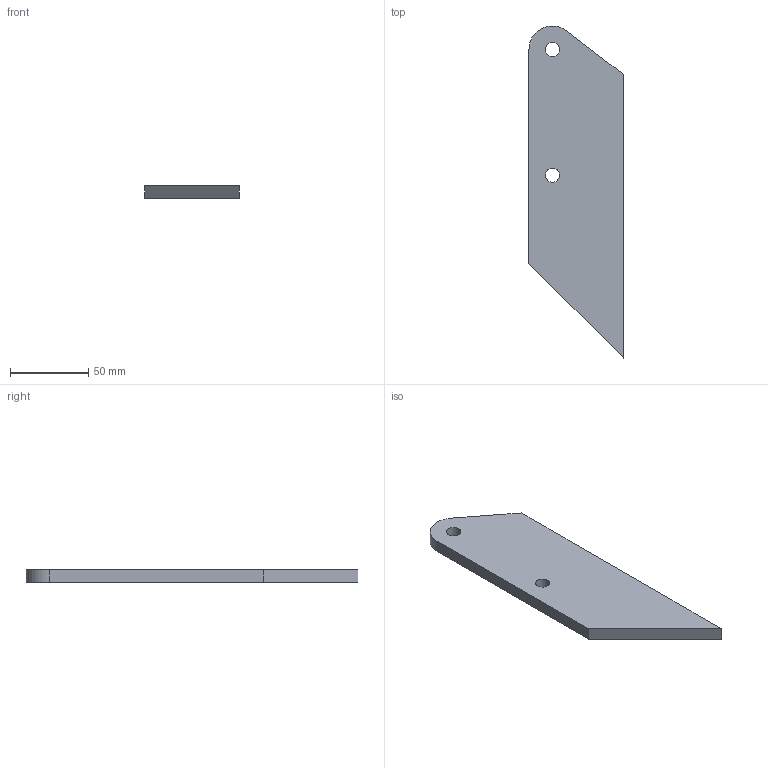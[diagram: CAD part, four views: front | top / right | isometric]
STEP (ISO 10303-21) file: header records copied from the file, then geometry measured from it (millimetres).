
FILE_DESCRIPTION(/* description */ (''),/* implementation_level */ '2;1');
FILE_NAME(/* name */ 'Pos144-Plaatwerk D= 8-S235JRG2-3st',/* time_stamp */ '2024-08-06T13:37:44+02:00',/* author */ (''),/* organization */ (''),/* preprocessor_version */ 'ST-DEVELOPER v16.5',/* originating_system */ 'HiCAD 2024 2901.2 Build 361',/* authorisation */ '');
FILE_SCHEMA (('AUTOMOTIVE_DESIGN { 1 0 10303 214 1 1 1 1 }'));
Length unit declared in the file: millimetre
Products named in the file (1): Pos144-Plaatwerk D= 8-S235JRG2-3st
Bounding box: 60 x 211.73 x 8 mm (x, y, z)
Volume: 80904 mm3; surface area: 24528.4 mm2
Topology: 1 solids, 1 shells, 9 faces, 23 edges, 16 vertices
Faces by surface type: plane 6, cylinder 3
Full cylindrical faces by diameter (mm): 9 x2
Entity records: 467 total; most frequent: DIRECTION 43, CARTESIAN_POINT 42, PRESENTATION_STYLE_ASSIGNMENT 39, COLOUR_RGB 39, DRAUGHTING_PRE_DEFINED_CURVE_FONT 38, CURVE_STYLE 38, OVER_RIDING_STYLED_ITEM 38, ORIENTED_EDGE 38
